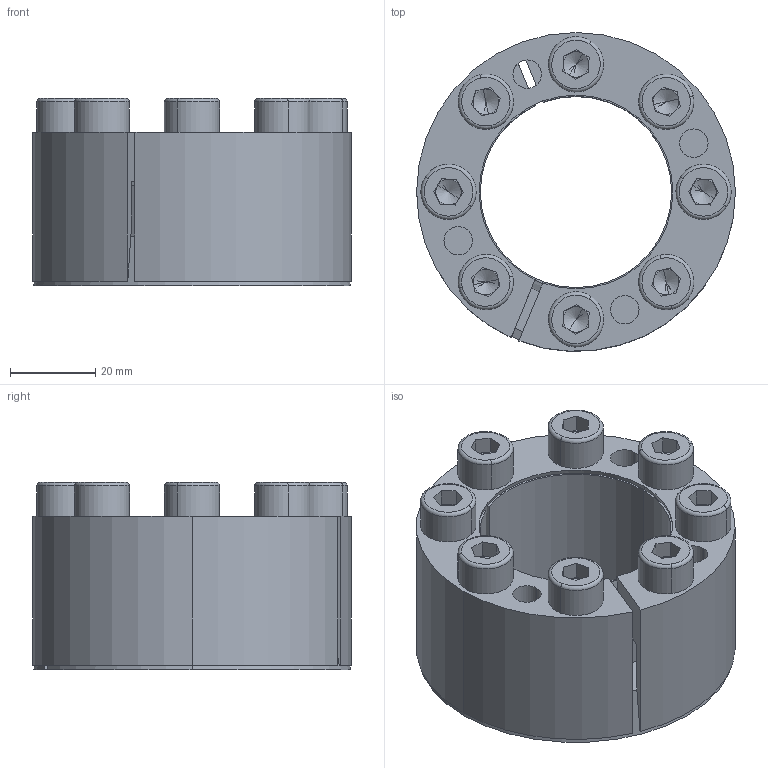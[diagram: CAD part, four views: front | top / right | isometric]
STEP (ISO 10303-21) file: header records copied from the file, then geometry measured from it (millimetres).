
FILE_DESCRIPTION (( 'STEP AP214' ), '1' );
FILE_NAME ('CONEX-K-45x75.step', '2013-04-06T13:21:14', ( 'Pc' ), ( '' ), 'SwSTEP 2.0', 'SolidWorks 2013', '' );
FILE_SCHEMA (( 'AUTOMOTIVE_DESIGN' ));
Length unit declared in the file: millimetre
Products named in the file (1): CONEX-K-45x75
Bounding box: 75 x 74.97 x 44.01 mm (x, y, z)
Volume: 87405.9 mm3; surface area: 52396.5 mm2
Topology: 10 solids, 10 shells, 290 faces, 670 edges, 400 vertices
Faces by surface type: plane 130, cylinder 84, cone 44, torus 32
Entity records: 11481 total; most frequent: DIRECTION 1542, CARTESIAN_POINT 1369, ORIENTED_EDGE 1308, EDGE_CURVE 654, AXIS2_PLACEMENT_3D 605, VERTEX_POINT 400, EDGE_LOOP 346, LINE 332
